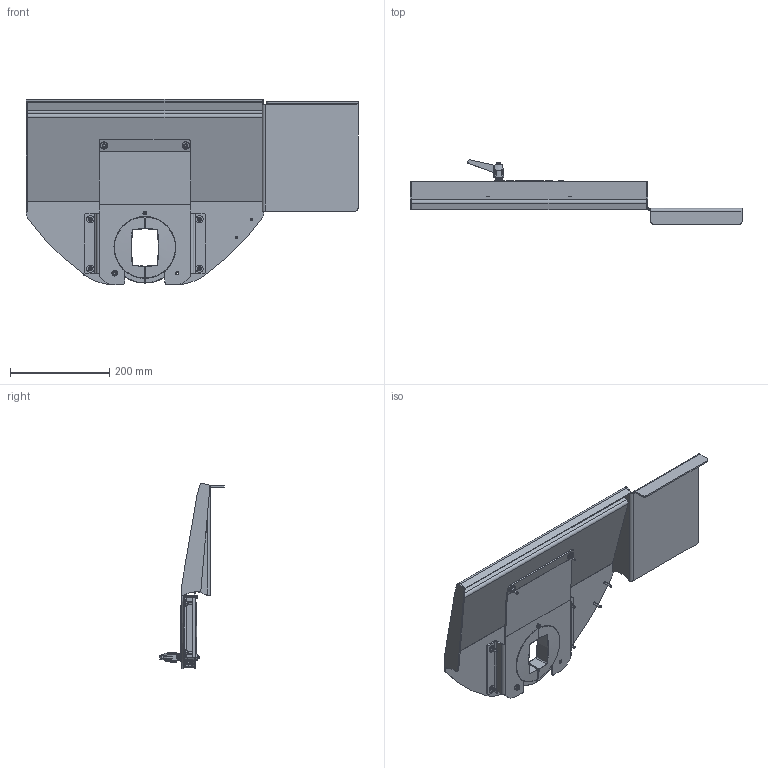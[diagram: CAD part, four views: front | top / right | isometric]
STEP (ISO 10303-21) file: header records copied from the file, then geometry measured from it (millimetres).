
FILE_DESCRIPTION((''),'2;1');
FILE_NAME('9806000113_ASM','2023-03-23T11:33:41',('Stephanie.Hoppe'),(''),'CREO PARAMETRIC BY PTC INC, 2022124','CREO PARAMETRIC BY PTC INC, 2022124','');
FILE_SCHEMA(('AUTOMOTIVE_DESIGN { 1 0 10303 214 1 1 1 1 }'));
Products named in the file (24): 9371085000; 9281908000; 9261635000; 9806000074_ASM; 9514172000_01; KVT_FH_M5_22; 9514172000_01_ASM; 9514172000_02; 9514172000_03; 9514172000_ASM; 9514173000; KVT-EINPRESSMUTTERM4; KVT-EINPRESSMUTTERM6; 9514173000_ASM; 9262009000; 9281801000; 9262024000; 9251143000; 9261384000; 9502370000; 9261367000; 9231837000; 9806000116_ASM; 9806000113_ASM
Assembly tree (43 placements, depth 5):
  9806000113_ASM
    9806000074_ASM
      9371085000  x2
      9281908000  x2
      9261635000  x2
    9806000116_ASM
      9514172000_ASM
        9514172000_01_ASM
          9514172000_01
          KVT_FH_M5_22  x8
        9514172000_02
        9514172000_03
      9514173000_ASM
        9514173000
        KVT-EINPRESSMUTTERM4
        KVT-EINPRESSMUTTERM6
      9262009000  x6
      9281801000  x6
      9262024000
      9251143000
      9261384000
      9502370000
      9261367000
      9231837000
Bounding box: 670 x 130.7 x 373.87 mm (x, y, z)
Volume: 1079982.1 mm3; surface area: 678685.5 mm2
Topology: 38 solids, 61 shells, 1935 faces, 4472 edges, 2728 vertices
Faces by surface type: cylinder 630, plane 453, bspline 288, cone 234, torus 170, sphere 160
Entity records: 67176 total; most frequent: CARTESIAN_POINT 18440, DIRECTION 6080, ORIENTED_EDGE 4980, PRESENTATION_STYLE_ASSIGNMENT 3449, STYLED_ITEM 3430, CURVE_STYLE 2673, EDGE_CURVE 2502, AXIS2_PLACEMENT_3D 2411
